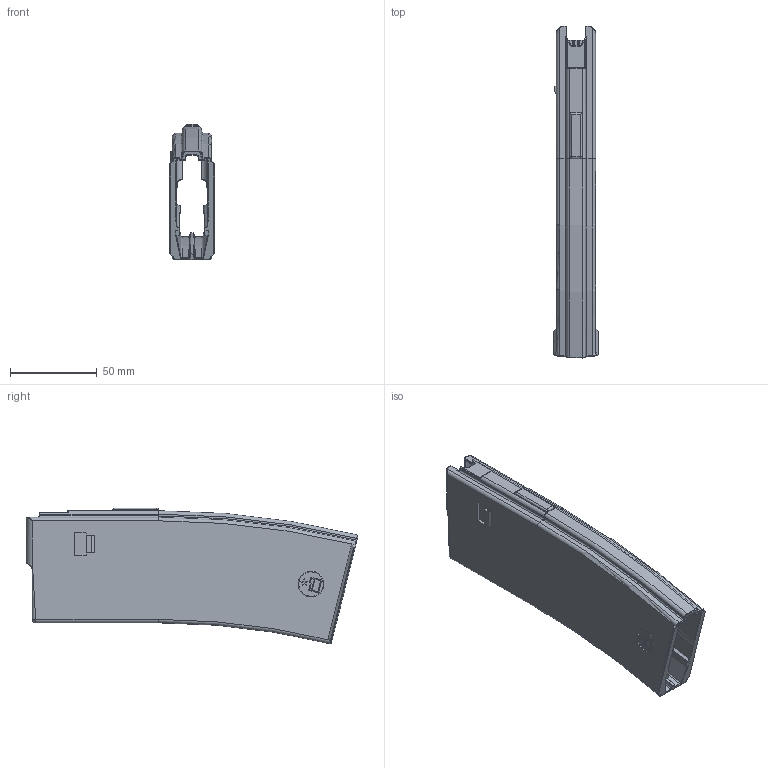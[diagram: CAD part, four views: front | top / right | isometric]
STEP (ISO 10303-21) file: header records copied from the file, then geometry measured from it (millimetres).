
FILE_DESCRIPTION(/* description */ ('STEP AP214'),/* implementation_level */ '2;1');
FILE_NAME(/* name */ 'D:\Ivan''s Printed Mag\Step\Ivan''s Standard Mag Body Without Brim.stp',/* time_stamp */ '2019-01-27T20:58:47-06:00',/* author */ ('johne'),/* organization */ (''),/* preprocessor_version */ 'ST-DEVELOPER v16.13',/* originating_system */ 'Autodesk Inventor 2018',/* authorisation */ '');
FILE_SCHEMA (('AUTOMOTIVE_DESIGN { 1 0 10303 214 3 1 1 }'));
Length unit declared in the file: millimetre
Products named in the file (1): doodoo
Bounding box: 25.65 x 191.03 x 78.09 mm (x, y, z)
Volume: 72833.9 mm3; surface area: 60798.6 mm2
Topology: 7 solids, 7 shells, 477 faces, 1223 edges, 744 vertices
Faces by surface type: plane 167, cylinder 152, bspline 97, torus 51, sphere 6, cone 4
Full cylindrical faces by diameter (mm): 14.072 x2
Entity records: 24504 total; most frequent: CARTESIAN_POINT 13479, ORIENTED_EDGE 2402, DIRECTION 2173, EDGE_CURVE 1201, AXIS2_PLACEMENT_3D 797, VERTEX_POINT 742, LINE 579, VECTOR 579
